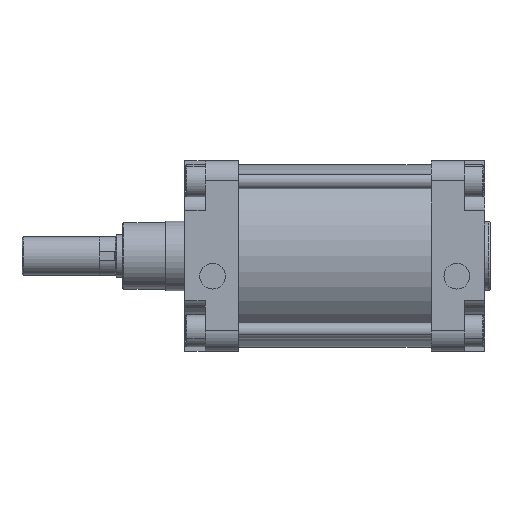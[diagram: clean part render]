
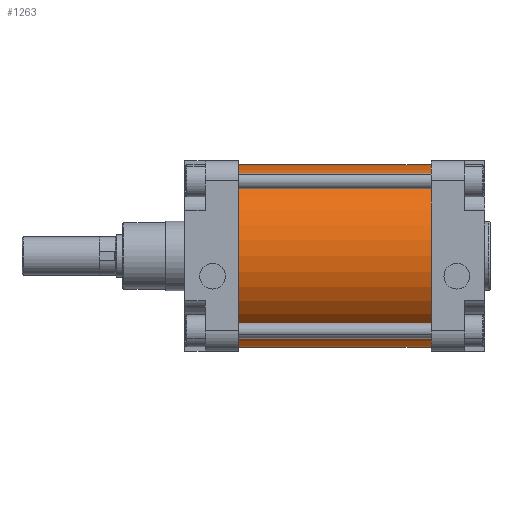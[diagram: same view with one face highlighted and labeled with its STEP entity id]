
A CAD part, top view. The second image highlights one B-rep face of the part: STEP entity #1263.
In plain terms, the highlighted cylindrical face has radius 85 mm (diameter 170 mm), a partial arc.
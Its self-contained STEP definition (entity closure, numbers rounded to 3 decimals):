
#853=CARTESIAN_POINT('Axis2P3D Location',(0.,0.,0.)) ;
#857=CARTESIAN_POINT('Vertex',(0.,85.,0.)) ;
#859=CARTESIAN_POINT('Vertex',(0.,-85.,0.)) ;
#1233=CARTESIAN_POINT('Axis2P3D Location',(90.,0.,0.)) ;
#1238=CARTESIAN_POINT('Line Origine',(90.,85.,0.)) ;
#1242=CARTESIAN_POINT('Vertex',(180.,85.,0.)) ;
#1245=CARTESIAN_POINT('Line Origine',(90.,-85.,0.)) ;
#1249=CARTESIAN_POINT('Vertex',(180.,-85.,0.)) ;
#1252=CARTESIAN_POINT('Axis2P3D Location',(180.,0.,0.)) ;
#854=DIRECTION('Axis2P3D Direction',(1.,0.,0.)) ;
#1234=DIRECTION('Axis2P3D Direction',(1.,0.,0.)) ;
#1235=DIRECTION('Axis2P3D XDirection',(0.,1.,0.)) ;
#1239=DIRECTION('Vector Direction',(1.,0.,0.)) ;
#1246=DIRECTION('Vector Direction',(1.,0.,0.)) ;
#1253=DIRECTION('Axis2P3D Direction',(1.,0.,0.)) ;
#855=AXIS2_PLACEMENT_3D('Circle Axis2P3D',#853,#854,$) ;
#1236=AXIS2_PLACEMENT_3D('Cylinder Axis2P3D',#1233,#1234,#1235) ;
#1254=AXIS2_PLACEMENT_3D('Circle Axis2P3D',#1252,#1253,$) ;
#1258=ORIENTED_EDGE('',*,*,#1244,.F.) ;
#1259=ORIENTED_EDGE('',*,*,#861,.T.) ;
#1260=ORIENTED_EDGE('',*,*,#1251,.T.) ;
#1261=ORIENTED_EDGE('',*,*,#1256,.F.) ;
#1240=VECTOR('Line Direction',#1239,1.) ;
#1247=VECTOR('Line Direction',#1246,1.) ;
#1263=ADVANCED_FACE('PartBody',(#1262),#1237,.T.) ;
#856=CIRCLE('generated circle',#855,85.) ;
#1255=CIRCLE('generated circle',#1254,85.) ;
#1237=CYLINDRICAL_SURFACE('generated cylinder',#1236,85.) ;
#861=EDGE_CURVE('',#858,#860,#856,.T.) ;
#1244=EDGE_CURVE('',#858,#1243,#1241,.T.) ;
#1251=EDGE_CURVE('',#860,#1250,#1248,.T.) ;
#1256=EDGE_CURVE('',#1243,#1250,#1255,.T.) ;
#1257=EDGE_LOOP('',(#1258,#1259,#1260,#1261)) ;
#1262=FACE_OUTER_BOUND('',#1257,.T.) ;
#1241=LINE('Line',#1238,#1240) ;
#1248=LINE('Line',#1245,#1247) ;
#858=VERTEX_POINT('',#857) ;
#860=VERTEX_POINT('',#859) ;
#1243=VERTEX_POINT('',#1242) ;
#1250=VERTEX_POINT('',#1249) ;
